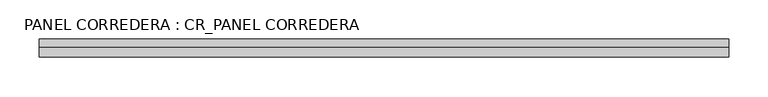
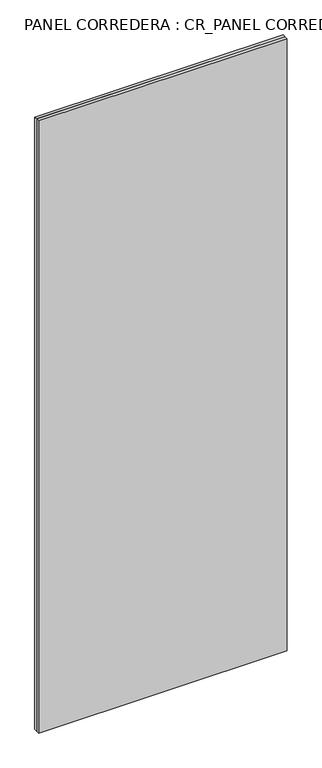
"""IFC4 building model written with IfcOpenShell, lengths in millimetres: plate geometry, PANEL CORREDERA : CR_PANEL CORREDERA."""

from ifc_helpers import new_model, si_unit, frame, origin, origin_with_axes, place, context, project, spatial, polyline, outline, extrude, source, transform, mapped, element, save


def panel_corredera_cr_panel_corredera_1cb9417a(model_context):
    return source(origin(), model_context, "Body", "SweptSolid", [
        extrude(outline(polyline([(2270.0, -361.3333333), (0.0, -361.3333333), (0.0, 511.3333333), (2270.0, 511.3333333), (2270.0, -361.3333333)]), holes=[polyline([(2250.0, -341.3333333), (2250.0, 491.3333333), (20.0, 491.3333333), (20.0, -341.3333333), (2250.0, -341.3333333)])]), frame((0.0, -30.0, 0.0), z_axis=(0.0, 1.0, 0.0), x_axis=(0.0, 0.0, 1.0)), (0.0, 0.0, 1.0), 10.0),
        extrude(outline(polyline([(511.3333333, -30.0), (511.3333333, -42.5), (-361.3333333, -42.5), (-361.3333333, -30.0), (511.3333333, -30.0)])), origin_with_axes(), (0.0, 0.0, 1.0), 2270.0),
    ])


if __name__ == "__main__":
    model = new_model("IFC4")
    model_context = context("Model", 3, world=origin())
    ifc_project = project(units=[si_unit("LENGTHUNIT", "METRE", prefix="MILLI")], contexts=[model_context])
    site = spatial("IfcSite", under=ifc_project)
    building = spatial("IfcBuilding", under=site)
    placement = place(None, origin())
    panel_corredera_cr_panel_corredera_shape = panel_corredera_cr_panel_corredera_1cb9417a(model_context)
    element("IfcPlate", 1, ObjectType="PANEL CORREDERA : CR_PANEL CORREDERA", at=placement, inside=building, context=model_context, shape_type="MappedRepresentation", body=[
        mapped(panel_corredera_cr_panel_corredera_shape, transform((0.0, 0.0, 0.0), x_axis=(1.0, 0.0, 0.0), y_axis=(0.0, 1.0, 0.0), z_axis=(0.0, 0.0, 1.0))),
    ])
    save(model, "model.ifc")
